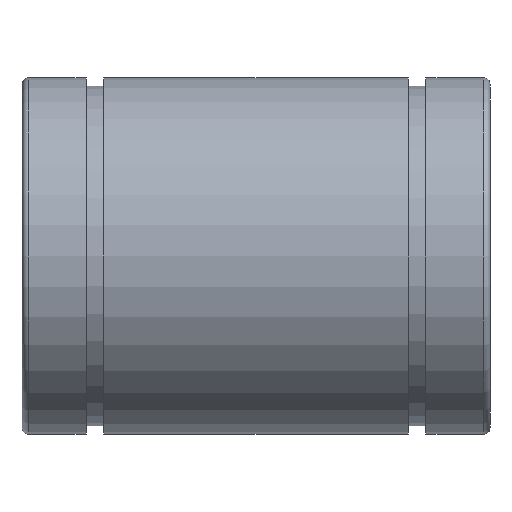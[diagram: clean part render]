
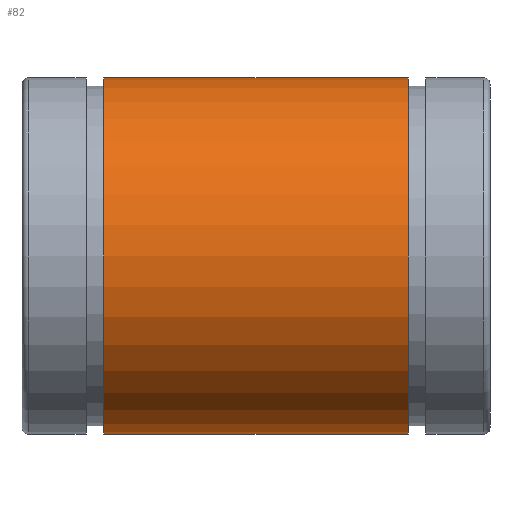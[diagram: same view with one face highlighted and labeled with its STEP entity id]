
A CAD part, front view. The second image highlights one B-rep face of the part: STEP entity #82.
In plain terms, the highlighted cylindrical face has radius 16 mm (diameter 32 mm), a full revolution.
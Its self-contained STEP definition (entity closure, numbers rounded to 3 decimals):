
#82=ADVANCED_FACE('',(#111,#112),#113,.T.);
#111=FACE_OUTER_BOUND('',#153,.T.);
#112=FACE_OUTER_BOUND('',#154,.T.);
#113=CYLINDRICAL_SURFACE('',#155,16.0);
#153=EDGE_LOOP('',(#209));
#154=EDGE_LOOP('',(#210));
#155=AXIS2_PLACEMENT_3D('',#211,#212,#213);
#209=ORIENTED_EDGE('',*,*,#253,.F.);
#210=ORIENTED_EDGE('',*,*,#246,.F.);
#211=CARTESIAN_POINT('',(0.,0.0,0.0));
#212=DIRECTION('',(1.0,-0.0,-0.0));
#213=DIRECTION('',(0.0,1.0,0.0));
#246=EDGE_CURVE('',#262,#262,#263,.T.);
#253=EDGE_CURVE('',#276,#276,#277,.T.);
#262=VERTEX_POINT('',#290);
#263=CIRCLE('',#291,16.0);
#276=VERTEX_POINT('',#304);
#277=CIRCLE('',#305,16.0);
#290=CARTESIAN_POINT('',(13.65,16.0,0.0));
#291=AXIS2_PLACEMENT_3D('',#320,#321,#322);
#304=CARTESIAN_POINT('',(-13.65,-16.0,0.0));
#305=AXIS2_PLACEMENT_3D('',#341,#342,#343);
#320=CARTESIAN_POINT('',(13.65,0.0,0.0));
#321=DIRECTION('',(1.0,0.0,0.0));
#322=DIRECTION('',(0.0,1.0,0.0));
#341=CARTESIAN_POINT('',(-13.65,0.0,0.0));
#342=DIRECTION('',(-1.0,0.0,0.0));
#343=DIRECTION('',(0.0,-1.0,0.0));
